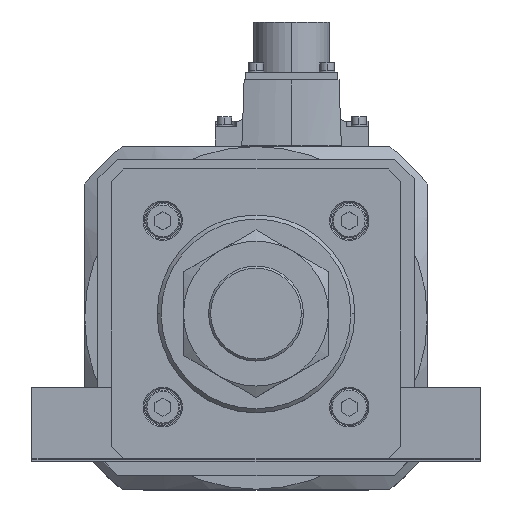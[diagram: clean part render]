
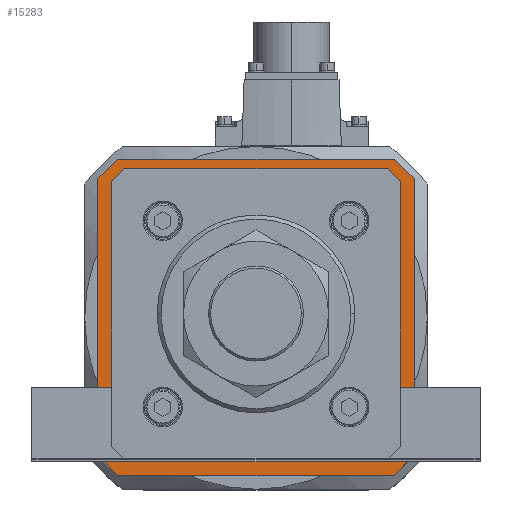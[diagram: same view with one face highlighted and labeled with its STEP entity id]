
A CAD part, top view. The second image highlights one B-rep face of the part: STEP entity #15283.
In plain terms, the highlighted planar face has unit normal (0, 0, 1).
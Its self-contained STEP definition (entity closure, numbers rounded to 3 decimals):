
#279 = DIRECTION ( 'NONE',  ( 0.707, 0.707, 0. ) ) ;
#839 = VECTOR ( 'NONE', #28232, 1000. ) ;
#848 = CARTESIAN_POINT ( 'NONE',  ( 60., 52.5, -119. ) ) ;
#1112 = EDGE_CURVE ( 'NONE', #1370, #26622, #25728, .T. ) ;
#1165 = DIRECTION ( 'NONE',  ( -0.707, 0.707, 0. ) ) ;
#1317 = CARTESIAN_POINT ( 'NONE',  ( 53.5, -49.8, -119. ) ) ;
#1360 = CARTESIAN_POINT ( 'NONE',  ( 52.5, 60., -119. ) ) ;
#1370 = VERTEX_POINT ( 'NONE', #17769 ) ;
#1437 = VERTEX_POINT ( 'NONE', #29003 ) ;
#1551 = FACE_BOUND ( 'NONE', #29845, .T. ) ;
#2018 = VECTOR ( 'NONE', #1165, 1000. ) ;
#2056 = EDGE_CURVE ( 'NONE', #1437, #20372, #30651, .T. ) ;
#2128 = CARTESIAN_POINT ( 'NONE',  ( -52.5, 60., -119. ) ) ;
#2926 = LINE ( 'NONE', #15203, #2018 ) ;
#3051 = EDGE_CURVE ( 'NONE', #10989, #13146, #31431, .T. ) ;
#3596 = ORIENTED_EDGE ( 'NONE', *, *, #27902, .T. ) ;
#3641 = ORIENTED_EDGE ( 'NONE', *, *, #33682, .T. ) ;
#3791 = ORIENTED_EDGE ( 'NONE', *, *, #34597, .F. ) ;
#4088 = CARTESIAN_POINT ( 'NONE',  ( -49.446, 53.646, -119. ) ) ;
#4761 = ORIENTED_EDGE ( 'NONE', *, *, #2056, .F. ) ;
#5064 = VERTEX_POINT ( 'NONE', #7816 ) ;
#6102 = FACE_OUTER_BOUND ( 'NONE', #6206, .T. ) ;
#6206 = EDGE_LOOP ( 'NONE', ( #34099, #4761, #25083, #3791, #10239, #37742, #6848, #14218 ) ) ;
#6848 = ORIENTED_EDGE ( 'NONE', *, *, #33571, .F. ) ;
#7816 = CARTESIAN_POINT ( 'NONE',  ( 49.593, -53.5, -119. ) ) ;
#7939 = LINE ( 'NONE', #848, #9331 ) ;
#8448 = CARTESIAN_POINT ( 'NONE',  ( -53.5, 49.8, -119. ) ) ;
#8461 = LINE ( 'NONE', #32109, #13911 ) ;
#8986 = CARTESIAN_POINT ( 'NONE',  ( -49.593, 53.5, -119. ) ) ;
#9054 = VECTOR ( 'NONE', #20402, 1000. ) ;
#9331 = VECTOR ( 'NONE', #15776, 1000. ) ;
#9588 = VECTOR ( 'NONE', #12309, 1000. ) ;
#9905 = LINE ( 'NONE', #17535, #31260 ) ;
#10239 = ORIENTED_EDGE ( 'NONE', *, *, #15028, .F. ) ;
#10734 = CARTESIAN_POINT ( 'NONE',  ( 60., 52.5, -119. ) ) ;
#10989 = VERTEX_POINT ( 'NONE', #8986 ) ;
#11592 = EDGE_CURVE ( 'NONE', #28567, #1437, #37714, .T. ) ;
#11690 = EDGE_CURVE ( 'NONE', #15467, #5064, #29953, .T. ) ;
#12309 = DIRECTION ( 'NONE',  ( 1., 0., 0. ) ) ;
#12357 = ORIENTED_EDGE ( 'NONE', *, *, #14969, .T. ) ;
#12392 = ORIENTED_EDGE ( 'NONE', *, *, #3051, .T. ) ;
#12759 = EDGE_CURVE ( 'NONE', #5064, #34042, #9905, .T. ) ;
#13146 = VERTEX_POINT ( 'NONE', #21454 ) ;
#13911 = VECTOR ( 'NONE', #23338, 1000. ) ;
#13931 = CARTESIAN_POINT ( 'NONE',  ( 52.5, 60., -119. ) ) ;
#14147 = DIRECTION ( 'NONE',  ( 0., 1., 0. ) ) ;
#14218 = ORIENTED_EDGE ( 'NONE', *, *, #28918, .F. ) ;
#14879 = VECTOR ( 'NONE', #14147, 1000. ) ;
#14969 = EDGE_CURVE ( 'NONE', #34042, #28009, #2926, .T. ) ;
#15028 = EDGE_CURVE ( 'NONE', #26622, #37605, #22958, .T. ) ;
#15052 = DIRECTION ( 'NONE',  ( 1., 0., 0. ) ) ;
#15203 = CARTESIAN_POINT ( 'NONE',  ( -53.646, -49.446, -119. ) ) ;
#15218 = VERTEX_POINT ( 'NONE', #22294 ) ;
#15283 = ADVANCED_FACE ( 'NONE', ( #1551, #6102 ), #23568, .T. ) ;
#15432 = CARTESIAN_POINT ( 'NONE',  ( 53.5, -49.593, -119. ) ) ;
#15467 = VERTEX_POINT ( 'NONE', #15432 ) ;
#15490 = DIRECTION ( 'NONE',  ( -0.707, -0.707, 0. ) ) ;
#15776 = DIRECTION ( 'NONE',  ( 0.707, -0.707, 0. ) ) ;
#15972 = DIRECTION ( 'NONE',  ( -1., 0., 0. ) ) ;
#16599 = VECTOR ( 'NONE', #24464, 1000. ) ;
#17535 = CARTESIAN_POINT ( 'NONE',  ( -49.8, -53.5, -119. ) ) ;
#17625 = CARTESIAN_POINT ( 'NONE',  ( 49.446, -53.646, -119. ) ) ;
#17631 = EDGE_CURVE ( 'NONE', #20372, #20976, #30328, .T. ) ;
#17769 = CARTESIAN_POINT ( 'NONE',  ( 60., -52.5, -119. ) ) ;
#18945 = VECTOR ( 'NONE', #15490, 1000. ) ;
#19021 = CARTESIAN_POINT ( 'NONE',  ( 52.5, -60., -119. ) ) ;
#19312 = CARTESIAN_POINT ( 'NONE',  ( -52.5, -60., -119. ) ) ;
#19553 = EDGE_CURVE ( 'NONE', #29175, #10989, #30662, .T. ) ;
#19880 = VECTOR ( 'NONE', #31825, 1000. ) ;
#20005 = CARTESIAN_POINT ( 'NONE',  ( 0., 0., -119. ) ) ;
#20158 = CARTESIAN_POINT ( 'NONE',  ( 53.646, 49.446, -119. ) ) ;
#20248 = VECTOR ( 'NONE', #15972, 1000. ) ;
#20372 = VERTEX_POINT ( 'NONE', #2128 ) ;
#20402 = DIRECTION ( 'NONE',  ( -0.707, -0.707, 0. ) ) ;
#20976 = VERTEX_POINT ( 'NONE', #13931 ) ;
#21454 = CARTESIAN_POINT ( 'NONE',  ( 49.593, 53.5, -119. ) ) ;
#21519 = CARTESIAN_POINT ( 'NONE',  ( 52.5, -60., -119. ) ) ;
#21731 = DIRECTION ( 'NONE',  ( 0., -1., 0. ) ) ;
#21974 = LINE ( 'NONE', #1317, #36508 ) ;
#22294 = CARTESIAN_POINT ( 'NONE',  ( 60., 52.5, -119. ) ) ;
#22600 = LINE ( 'NONE', #8448, #14879 ) ;
#22958 = LINE ( 'NONE', #19021, #20248 ) ;
#23338 = DIRECTION ( 'NONE',  ( -0.707, 0.707, 0. ) ) ;
#23568 = PLANE ( 'NONE',  #29149 ) ;
#24464 = DIRECTION ( 'NONE',  ( 0.707, 0.707, 0. ) ) ;
#25083 = ORIENTED_EDGE ( 'NONE', *, *, #11592, .F. ) ;
#25176 = CARTESIAN_POINT ( 'NONE',  ( -60., -52.5, -119. ) ) ;
#25456 = CARTESIAN_POINT ( 'NONE',  ( -60., 52.5, -119. ) ) ;
#25728 = LINE ( 'NONE', #35812, #18945 ) ;
#26287 = CARTESIAN_POINT ( 'NONE',  ( 53.5, 49.593, -119. ) ) ;
#26622 = VERTEX_POINT ( 'NONE', #21519 ) ;
#26628 = CARTESIAN_POINT ( 'NONE',  ( -52.5, 60., -119. ) ) ;
#27148 = VECTOR ( 'NONE', #36108, 1000. ) ;
#27902 = EDGE_CURVE ( 'NONE', #13146, #36041, #29833, .T. ) ;
#28009 = VERTEX_POINT ( 'NONE', #28881 ) ;
#28232 = DIRECTION ( 'NONE',  ( 0., 1., 0. ) ) ;
#28343 = ORIENTED_EDGE ( 'NONE', *, *, #19553, .T. ) ;
#28408 = CARTESIAN_POINT ( 'NONE',  ( -53.5, 49.593, -119. ) ) ;
#28567 = VERTEX_POINT ( 'NONE', #25176 ) ;
#28740 = ORIENTED_EDGE ( 'NONE', *, *, #12759, .T. ) ;
#28881 = CARTESIAN_POINT ( 'NONE',  ( -53.5, -49.593, -119. ) ) ;
#28918 = EDGE_CURVE ( 'NONE', #20976, #15218, #7939, .T. ) ;
#29003 = CARTESIAN_POINT ( 'NONE',  ( -60., 52.5, -119. ) ) ;
#29149 = AXIS2_PLACEMENT_3D ( 'NONE', #20005, #32446, #15052 ) ;
#29175 = VERTEX_POINT ( 'NONE', #28408 ) ;
#29395 = LINE ( 'NONE', #10734, #33036 ) ;
#29833 = LINE ( 'NONE', #20158, #19880 ) ;
#29845 = EDGE_LOOP ( 'NONE', ( #12392, #3596, #36317, #32069, #28740, #12357, #3641, #28343 ) ) ;
#29953 = LINE ( 'NONE', #17625, #9054 ) ;
#30328 = LINE ( 'NONE', #1360, #27148 ) ;
#30651 = LINE ( 'NONE', #26628, #32485 ) ;
#30662 = LINE ( 'NONE', #4088, #16599 ) ;
#30672 = DIRECTION ( 'NONE',  ( 0., -1., 0. ) ) ;
#31260 = VECTOR ( 'NONE', #37696, 1000. ) ;
#31431 = LINE ( 'NONE', #31500, #9588 ) ;
#31500 = CARTESIAN_POINT ( 'NONE',  ( 49.8, 53.5, -119. ) ) ;
#31825 = DIRECTION ( 'NONE',  ( 0.707, -0.707, 0. ) ) ;
#31951 = EDGE_CURVE ( 'NONE', #36041, #15467, #21974, .T. ) ;
#32069 = ORIENTED_EDGE ( 'NONE', *, *, #11690, .T. ) ;
#32109 = CARTESIAN_POINT ( 'NONE',  ( -52.5, -60., -119. ) ) ;
#32446 = DIRECTION ( 'NONE',  ( 0., 0., 1. ) ) ;
#32485 = VECTOR ( 'NONE', #279, 1000. ) ;
#33036 = VECTOR ( 'NONE', #30672, 1000. ) ;
#33571 = EDGE_CURVE ( 'NONE', #15218, #1370, #29395, .T. ) ;
#33682 = EDGE_CURVE ( 'NONE', #28009, #29175, #22600, .T. ) ;
#34042 = VERTEX_POINT ( 'NONE', #37128 ) ;
#34099 = ORIENTED_EDGE ( 'NONE', *, *, #17631, .F. ) ;
#34597 = EDGE_CURVE ( 'NONE', #37605, #28567, #8461, .T. ) ;
#35812 = CARTESIAN_POINT ( 'NONE',  ( 60., -52.5, -119. ) ) ;
#36041 = VERTEX_POINT ( 'NONE', #26287 ) ;
#36108 = DIRECTION ( 'NONE',  ( 1., 0., 0. ) ) ;
#36317 = ORIENTED_EDGE ( 'NONE', *, *, #31951, .T. ) ;
#36508 = VECTOR ( 'NONE', #21731, 1000. ) ;
#37128 = CARTESIAN_POINT ( 'NONE',  ( -49.593, -53.5, -119. ) ) ;
#37605 = VERTEX_POINT ( 'NONE', #19312 ) ;
#37696 = DIRECTION ( 'NONE',  ( -1., 0., 0. ) ) ;
#37714 = LINE ( 'NONE', #25456, #839 ) ;
#37742 = ORIENTED_EDGE ( 'NONE', *, *, #1112, .F. ) ;
